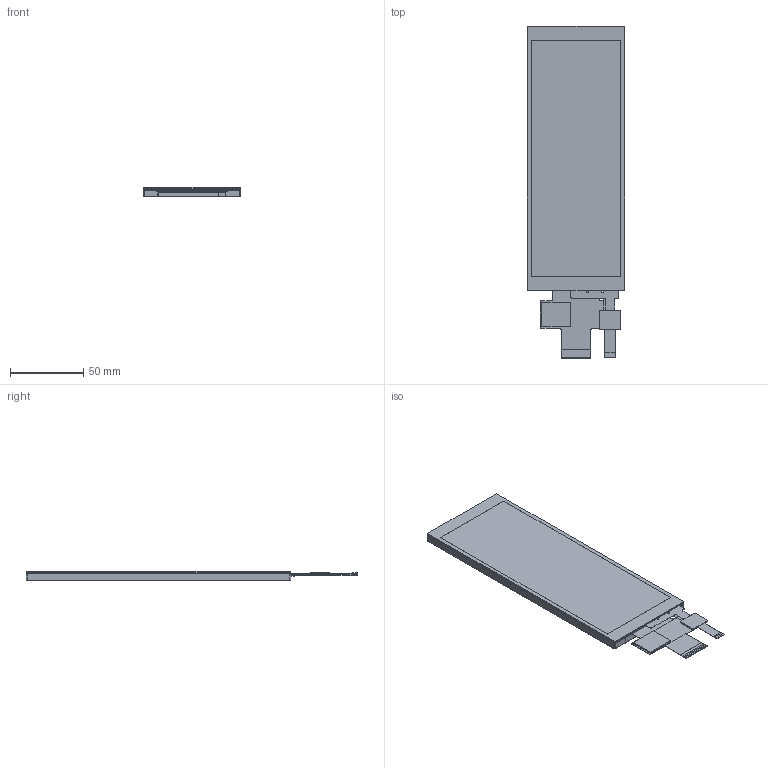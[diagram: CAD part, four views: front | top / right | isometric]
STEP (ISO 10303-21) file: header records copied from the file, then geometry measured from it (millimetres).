
FILE_DESCRIPTION (( 'STEP AP203' ), '1' );
FILE_NAME ('NHD-6.8-4801280AF-ASXP-CTP.STEP', '2026-02-17T14:59:46', ( '' ), ( '' ), 'SwSTEP 2.0', 'SolidWorks 2019', '' );
FILE_SCHEMA (( 'CONFIG_CONTROL_DESIGN' ));
Length unit declared in the file: millimetre
Products named in the file (1): NHD-6.8-4801280AF-ASXP-CTP
Bounding box: 66.8 x 227.1 x 6.6 mm (x, y, z)
Volume: 75889.2 mm3; surface area: 86659.6 mm2
Topology: 46 solids, 46 shells, 573 faces, 1398 edges, 932 vertices
Faces by surface type: plane 513, cylinder 60
Entity records: 16595 total; most frequent: CARTESIAN_POINT 2982, ORIENTED_EDGE 2796, DIRECTION 2634, EDGE_CURVE 1398, VECTOR 1266, LINE 1266, VERTEX_POINT 932, AXIS2_PLACEMENT_3D 684
